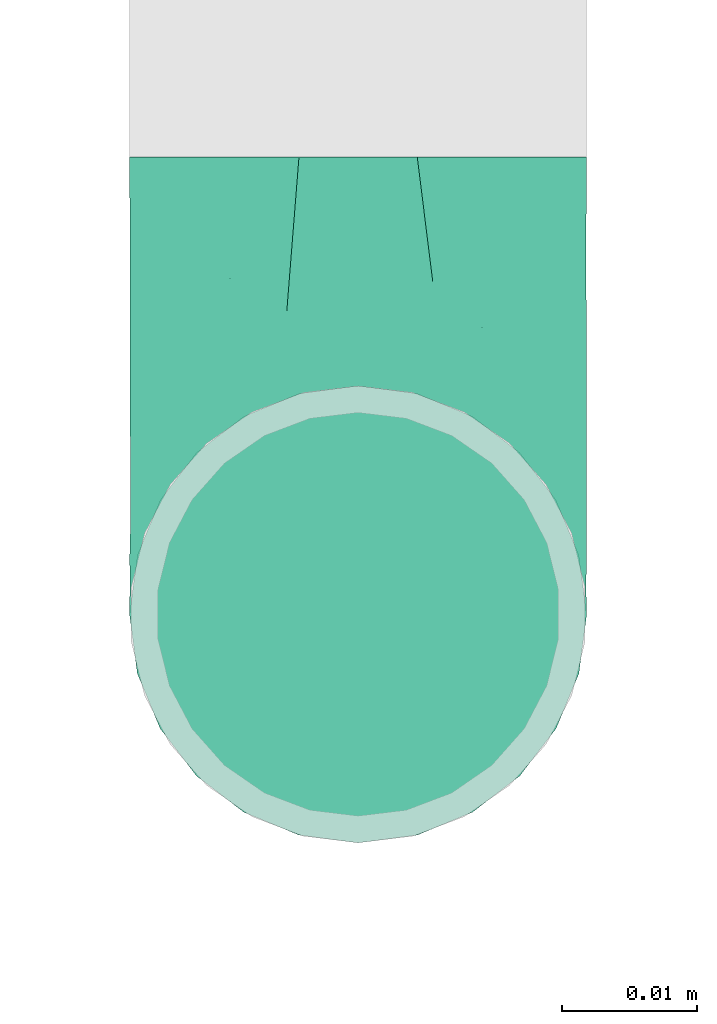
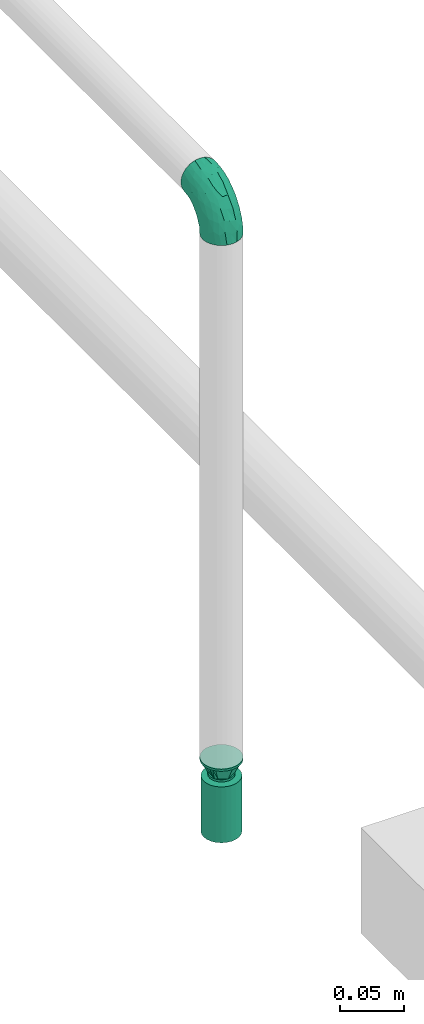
# One storey, part 52 of 95: 2 flow fittings, 1 flow terminal.
"""IFC2X3 building model written with IfcOpenShell, lengths in millimetres."""

from ifc_helpers import new_model, entity, si_unit, converted_unit, derived_unit, direction, frame, origin_with_axes, place, context, subcontext, project, spatial, open_shell, surface_model, source, transform, mapped, type_object, element, save


model = new_model("IFC2X3")

# Units and contexts
model_context = context("Model", 3, precision=0.01, world=frame((0.0, 4.29681676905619e-09, 0.0)), true_north=direction((4.01073788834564e-13, 1.0)))
plan_context = context("Plan", 3, precision=0.01, world=frame((0.0, 4.29681676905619e-09, 0.0)), true_north=direction((4.01073788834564e-13, 1.0)))
body_context = subcontext(model_context, "Body", "Model", "MODEL_VIEW")
ifc_project = project(units=[converted_unit("PLANEANGLEUNIT", "DEGREE", entity("IfcPositiveLengthMeasure", 0.0174532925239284), si_unit("PLANEANGLEUNIT", "RADIAN"), dimensions=[0, 0, 0, 0, 0, 0, 0]), si_unit("AREAUNIT", "SQUARE_METRE"), si_unit("LENGTHUNIT", "METRE", prefix="MILLI"), si_unit("MASSUNIT", "GRAM", prefix="KILO"), si_unit("POWERUNIT", "WATT"), si_unit("PRESSUREUNIT", "PASCAL"), si_unit("FORCEUNIT", "NEWTON", prefix="KILO"), si_unit("ELECTRICVOLTAGEUNIT", "VOLT"), si_unit("ELECTRICCURRENTUNIT", "AMPERE"), si_unit("THERMODYNAMICTEMPERATUREUNIT", "DEGREE_CELSIUS"), si_unit("TIMEUNIT", "SECOND"), si_unit("VOLUMEUNIT", "CUBIC_METRE"), derived_unit("LINEARVELOCITYUNIT", [(si_unit("LENGTHUNIT", "METRE"), 1), (si_unit("TIMEUNIT", "SECOND"), -1)]), derived_unit("VOLUMETRICFLOWRATEUNIT", [(si_unit("VOLUMEUNIT", "CUBIC_METRE"), 1), (si_unit("TIMEUNIT", "SECOND"), -1)]), derived_unit("THERMALTRANSMITTANCEUNIT", [(si_unit("POWERUNIT", "WATT"), 1), (si_unit("THERMODYNAMICTEMPERATUREUNIT", "KELVIN"), -1), (si_unit("AREAUNIT", "SQUARE_METRE"), -1)]), derived_unit("SOUNDPRESSUREUNIT", [(si_unit("PRESSUREUNIT", "PASCAL"), 1)])], contexts=[model_context, plan_context])

# Site, building, storey
site_placement = place(None, frame((0.0, -4.29681676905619e-09, 0.0), z_axis=(0.0, 0.0, 1.0), x_axis=(1.0, 0.0, 0.0)))
site = spatial("IfcSite", under=ifc_project, at=site_placement, CompositionType="ELEMENT")
building_placement = place(site_placement, frame((0.0, 4.29681676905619e-09, 0.0), z_axis=(0.0, 0.0, 1.0), x_axis=(1.0, 0.0, 0.0)))
building = spatial("IfcBuilding", under=site, at=building_placement, Name="mc-building", CompositionType="ELEMENT")
storey_placement = place(building_placement, frame((0.0, 0.0, 210900.0), z_axis=(0.0, 0.0, 1.0), x_axis=(1.0, 0.0, 0.0)))
storey = spatial("IfcBuildingStorey", under=building, at=storey_placement, Name="Nivå F", CompositionType="ELEMENT", Elevation=210900.0)

# Flow fittings
pipe_fitting_type_1 = type_object("IfcPipeFittingType", Name="magi_pipe_fe_reducer_centric_short_NOR", PredefinedType="TRANSITION")
shared_shape_1 = source(origin_with_axes(), body_context, "Body", "SurfaceModel", [
    surface_model("IfcShellBasedSurfaceModel", [(-2.0, -7.56604, -7.56604), (-2.0, -10.33541, -2.76936), (-2.0, -5.35, -9.26647), (-2.0, 5.35, -9.26647), (-2.0, 10.33541, -2.76936), (-2.0, 7.56604, -7.56604), (12.4, 11.9501, 11.9501), (12.4, 0.0, 16.9), (12.4, 11.9501, -11.9501), (12.4, 16.9, 0.0), (0.0, -10.7, 0.0), (0.0, -5.35, 9.26647), (0.0, -5.35, -9.26647), (0.0, 10.7, 0.0), (12.4, 15.66253, -2.98753), (12.4, 8.96258, -13.18758), (0.0, 6.6875, -6.94985), (12.4, -15.66253, -2.98753), (12.4, -16.9, 0.0), (12.4, 5.97505, -14.42505), (0.0, 5.35, -9.26647), (12.4, 14.42505, -5.97505), (0.0, 8.025, -4.63324), (0.0, 9.3625, -2.31662), (0.0, -9.3625, -2.31662), (0.0, -8.025, -4.63324), (12.4, -14.42505, -5.97505), (12.4, 13.18758, -8.96258), (12.4, -13.18758, -8.96258), (12.4, -11.9501, -11.9501), (0.0, -6.6875, -6.94985), (12.4, -8.96258, -13.18758), (12.4, -5.97505, -14.42505), (12.4, -15.66253, 2.98753), (12.4, -8.96258, 13.18758), (0.0, -6.6875, 6.94985), (12.4, -11.9501, 11.9501), (12.4, 15.66253, 2.98753), (12.4, -5.97505, 14.42505), (12.4, -14.42505, 5.97505), (0.0, -8.025, 4.63324), (0.0, -9.3625, 2.31662), (0.0, 9.3625, 2.31662), (0.0, 8.025, 4.63324), (12.4, 14.42505, 5.97505), (12.4, -13.18758, 8.96258), (12.4, 13.18758, 8.96258), (0.0, 6.6875, 6.94985), (12.4, 8.96258, 13.18758), (0.0, 5.35, 9.26647), (12.4, 5.97505, 14.42505), (14.4, 4.37404, -16.32415), (14.4, 8.45, -14.63583), (14.4, 11.9501, -11.9501), (14.4, -8.45, -14.63583), (14.4, 16.32415, -4.37404), (14.4, 16.32415, 4.37404), (14.4, 14.63583, -8.45), (14.4, 0.0, -16.9), (14.4, -4.37404, -16.32415), (14.4, -11.9501, -11.9501), (14.4, -16.32415, -4.37404), (14.4, -14.63583, -8.45), (14.4, -16.32415, 4.37404), (14.4, 16.9, 0.0), (14.4, 14.63583, 8.45), (14.4, 11.9501, 11.9501), (14.4, 4.37404, 16.32415), (14.4, 8.45, 14.63583), (14.4, 0.0, 16.9), (14.4, -14.63583, 8.45), (14.4, -16.9, 0.0), (14.4, -8.45, 14.63583), (14.4, -11.9501, 11.9501), (14.4, -4.37404, 16.32415), (12.4, 4.37404, 16.32415), (12.4, -14.63583, 8.45), (12.4, 16.32415, 4.37404), (12.4, 8.45, 14.63583), (12.4, 14.63583, 8.45), (12.4, -8.45, 14.63583), (12.4, -4.37404, 16.32415), (12.4, -16.32415, 4.37404), (12.4, -16.32415, -4.37404), (12.4, -8.45, -14.63583), (12.4, 16.32415, -4.37404), (12.4, 14.63583, -8.45), (12.4, 8.45, -14.63583), (12.4, 4.37404, -16.32415), (12.4, 0.0, -16.9), (12.4, -14.63583, -8.45), (12.4, -4.37404, -16.32415), (-2.0, 2.76936, 10.33541), (-2.0, 0.0, 10.7), (-2.0, 5.35, 9.26647), (-2.0, 7.56604, 7.56604), (-2.0, 9.26647, 5.35), (-2.0, 10.33541, 2.76936), (-2.0, -10.33541, 2.76936), (-2.0, -2.76936, 10.33541), (-2.0, -7.56604, 7.56604), (-2.0, -5.35, 9.26647), (-2.0, -9.26647, 5.35), (-2.0, -10.7, 0.0), (-2.0, 9.26647, -5.35), (-2.0, 2.76936, -10.33541), (-2.0, -9.26647, -5.35), (-2.0, 0.0, -10.7), (-2.0, -2.76936, -10.33541), (-2.0, 10.7, 0.0), (0.0, 0.0, -10.7), (0.0, 2.76936, -10.33541), (0.0, 10.33541, -2.76936), (0.0, 7.56604, -7.56604), (0.0, -10.33541, -2.76936), (0.0, 9.26647, -5.35), (0.0, 0.0, 10.7), (0.0, -2.76936, -10.33541), (0.0, -7.56604, -7.56604), (0.0, -9.26647, -5.35), (0.0, 10.33541, 2.76936), (0.0, 9.26647, 5.35), (0.0, 7.56604, 7.56604), (0.0, 2.76936, 10.33541), (0.0, -7.56604, 7.56604), (0.0, -10.33541, 2.76936), (0.0, -9.26647, 5.35), (0.0, -2.76936, 10.33541), (0.0, 2.675, -9.26647), (0.0, -2.675, -9.26647), (12.4, 2.98753, -15.66253), (0.0, 0.0, -9.26647), (12.4, -2.98753, -15.66253), (0.0, -2.675, 9.26647), (0.0, 2.675, 9.26647), (12.4, -2.98753, 15.66253), (0.0, 0.0, 9.26647), (12.4, 2.98753, 15.66253)], [open_shell([[[0, 1, 2]], [[3, 4, 5]], [[6, 7, 8]], [[8, 9, 6]], [[10, 11, 12]], [[13, 9, 14]], [[15, 16, 8]], [[17, 18, 10]], [[15, 19, 20]], [[21, 22, 23]], [[24, 25, 26]], [[22, 21, 27]], [[28, 26, 25]], [[29, 30, 31]], [[12, 32, 31]], [[10, 18, 33]], [[34, 35, 36]], [[37, 9, 13]], [[34, 38, 11]], [[39, 40, 41]], [[42, 43, 44]], [[40, 39, 45]], [[46, 44, 43]], [[6, 47, 48]], [[49, 50, 48]], [[51, 52, 53]], [[54, 51, 53]], [[53, 55, 56]], [[55, 53, 57]], [[53, 56, 54]], [[58, 54, 59]], [[58, 51, 54]], [[60, 61, 62]], [[61, 60, 54]], [[54, 63, 61]], [[56, 55, 64]], [[56, 65, 66]], [[56, 66, 67]], [[67, 63, 54]], [[67, 66, 68]], [[63, 67, 69]], [[69, 70, 63]], [[71, 61, 63]], [[70, 72, 73]], [[70, 69, 72]], [[72, 69, 74]], [[54, 56, 67]], [[75, 76, 7]], [[77, 75, 78]], [[6, 79, 77]], [[6, 77, 78]], [[76, 75, 77]], [[80, 76, 36]], [[80, 81, 7]], [[7, 76, 80]], [[82, 76, 77]], [[82, 83, 18]], [[82, 77, 84]], [[77, 85, 8]], [[8, 85, 86]], [[8, 87, 88]], [[84, 77, 8]], [[88, 89, 8]], [[83, 29, 90]], [[29, 83, 84]], [[84, 89, 91]], [[83, 82, 84]], [[8, 89, 84]], [[85, 77, 9]], [[83, 61, 18]], [[90, 62, 83]], [[54, 29, 84]], [[90, 29, 60]], [[59, 84, 91]], [[83, 62, 61]], [[61, 71, 18]], [[59, 54, 84]], [[60, 29, 54]], [[60, 62, 90]], [[58, 59, 91]], [[91, 89, 58]], [[88, 51, 89]], [[87, 52, 88]], [[57, 8, 86]], [[87, 8, 53]], [[55, 86, 85]], [[87, 53, 52]], [[52, 51, 88]], [[64, 55, 85]], [[57, 86, 55]], [[57, 53, 8]], [[9, 64, 85]], [[89, 51, 58]], [[77, 56, 9]], [[79, 65, 77]], [[68, 6, 78]], [[79, 6, 66]], [[67, 78, 75]], [[77, 65, 56]], [[56, 64, 9]], [[67, 68, 78]], [[66, 6, 68]], [[66, 65, 79]], [[69, 67, 75]], [[75, 7, 69]], [[81, 74, 7]], [[80, 72, 81]], [[70, 36, 76]], [[80, 36, 73]], [[63, 76, 82]], [[80, 73, 72]], [[72, 74, 81]], [[71, 63, 82]], [[70, 76, 63]], [[70, 73, 36]], [[18, 71, 82]], [[7, 74, 69]], [[92, 1, 93]], [[94, 1, 92]], [[95, 96, 97]], [[95, 97, 94]], [[98, 93, 1]], [[99, 100, 101]], [[99, 93, 100]], [[100, 98, 102]], [[93, 98, 100]], [[98, 1, 103]], [[94, 97, 1]], [[1, 97, 4]], [[5, 4, 104]], [[4, 3, 1]], [[105, 1, 3]], [[1, 0, 106]], [[2, 107, 108]], [[2, 1, 105]], [[105, 107, 2]], [[4, 97, 109]], [[20, 110, 111]], [[112, 20, 113]], [[114, 20, 112]], [[112, 113, 115]], [[116, 114, 112]], [[110, 12, 117]], [[110, 20, 12]], [[118, 114, 119]], [[114, 118, 12]], [[20, 114, 12]], [[112, 13, 120]], [[120, 121, 122]], [[120, 122, 123]], [[116, 112, 123]], [[123, 122, 49]], [[116, 124, 114]], [[125, 124, 126]], [[10, 114, 125]], [[124, 127, 11]], [[125, 114, 124]], [[127, 124, 116]], [[123, 112, 120]], [[1, 114, 103]], [[106, 119, 1]], [[12, 0, 2]], [[106, 0, 118]], [[117, 2, 108]], [[1, 119, 114]], [[114, 10, 103]], [[117, 12, 2]], [[118, 0, 12]], [[118, 119, 106]], [[110, 117, 108]], [[108, 107, 110]], [[105, 111, 107]], [[3, 20, 105]], [[115, 5, 104]], [[3, 5, 113]], [[112, 104, 4]], [[3, 113, 20]], [[20, 111, 105]], [[13, 112, 4]], [[115, 104, 112]], [[115, 113, 5]], [[109, 13, 4]], [[107, 111, 110]], [[97, 120, 109]], [[96, 121, 97]], [[49, 95, 94]], [[96, 95, 122]], [[123, 94, 92]], [[97, 121, 120]], [[120, 13, 109]], [[123, 49, 94]], [[122, 95, 49]], [[122, 121, 96]], [[116, 123, 92]], [[92, 93, 116]], [[99, 127, 93]], [[101, 11, 99]], [[126, 100, 102]], [[101, 100, 124]], [[125, 102, 98]], [[101, 124, 11]], [[11, 127, 99]], [[10, 125, 98]], [[126, 102, 125]], [[126, 124, 100]], [[103, 10, 98]], [[93, 127, 116]], [[18, 7, 36]], [[18, 29, 8]], [[89, 8, 29]], [[18, 8, 7]], [[13, 11, 49]], [[13, 20, 12]], [[13, 12, 11]], [[24, 26, 17]], [[10, 24, 17]], [[16, 15, 20]], [[30, 12, 31]], [[23, 14, 21]], [[19, 128, 20]], [[27, 8, 16]], [[32, 12, 129]], [[30, 28, 25]], [[130, 131, 128]], [[129, 132, 32]], [[16, 22, 27]], [[13, 14, 23]], [[128, 19, 130]], [[130, 89, 131]], [[131, 132, 129]], [[89, 132, 131]], [[28, 30, 29]], [[42, 44, 37]], [[13, 42, 37]], [[35, 34, 11]], [[47, 49, 48]], [[41, 33, 39]], [[38, 133, 11]], [[45, 36, 35]], [[50, 49, 134]], [[47, 46, 43]], [[135, 136, 133]], [[134, 137, 50]], [[35, 40, 45]], [[10, 33, 41]], [[133, 38, 135]], [[135, 7, 136]], [[136, 137, 134]], [[7, 137, 136]], [[46, 47, 6]]])]),
])
flow_fitting_1_placement = place(storey_placement, frame((535898.68266, 444207.85, 3762.948), z_axis=(-1.0, 0.0, 0.0), x_axis=(0.0, 0.0, 1.0)))
element("IfcFlowFitting", 1, at=flow_fitting_1_placement, inside=storey, type_object=pipe_fitting_type_1, Name="magi_pipe_fe_reducer_centric_short_NOR", context=body_context, shape_type="MappedRepresentation", body=[
    mapped(shared_shape_1, transform((0.0, 0.0, 0.0), scale=1.0)),
])
pipe_fitting_type_2 = type_object("IfcPipeFittingType", Name="magi_pipe_fe_elbow_short_001", PredefinedType="BEND")
shared_shape_2 = source(origin_with_axes(), body_context, "Body", "SurfaceModel", [
    surface_model("IfcShellBasedSurfaceModel", [(-33.8, 8.45, -14.63583), (-33.8, 4.37404, -16.32415), (-33.8, 11.9501, -11.9501), (-33.8, -11.9501, -11.9501), (-33.8, -14.63583, -8.45), (-33.8, -8.45, -14.63583), (-33.8, 0.0, -16.9), (-33.8, -4.37404, -16.32415), (-33.8, -4.37404, 16.32415), (-33.8, 0.0, 16.9), (-33.8, -8.45, 14.63583), (-33.8, 16.32415, -4.37404), (-33.8, 14.63583, -8.45), (-33.8, -16.32415, -4.37404), (-33.8, -16.9, 0.0), (-33.8, -16.32415, 4.37404), (-33.8, 11.9501, 11.9501), (-33.8, 14.63583, 8.45), (-33.8, 16.32415, 4.37404), (-33.8, 4.37404, 16.32415), (-33.8, 8.45, 14.63583), (-33.8, -14.63583, 8.45), (-33.8, -11.9501, 11.9501), (-33.8, 16.9, 0.0), (-11.9501, 33.8, -11.9501), (0.0, 33.8, -16.9), (-4.37404, 33.8, -16.32415), (-8.45, 33.8, -14.63583), (-14.63583, 33.8, -8.45), (-16.32415, 33.8, -4.37404), (14.63583, 33.8, -8.45), (8.45, 33.8, 14.63583), (16.32415, 33.8, -4.37404), (8.45, 33.8, -14.63583), (11.9501, 33.8, -11.9501), (4.37404, 33.8, -16.32415), (16.32415, 33.8, 4.37404), (16.9, 33.8, 0.0), (-11.9501, 33.8, 11.9501), (-16.32415, 33.8, 4.37404), (-14.63583, 33.8, 8.45), (-8.45, 33.8, 14.63583), (-4.37404, 33.8, 16.32415), (11.9501, 33.8, 11.9501), (14.63583, 33.8, 8.45), (0.0, 33.8, 16.9), (4.37404, 33.8, 16.32415), (-16.9, 33.8, 0.0), (-24.79389, -13.12945, 9.48721), (-22.19287, -9.75018, 12.59315), (-24.09897, -14.97035, 0.0), (-14.93934, -10.76256, 8.5297), (-22.46095, -14.75051, 5.27077), (14.75051, 22.46094, 5.27077), (11.9251, 13.23888, 4.33236), (13.04069, 14.39795, 0.0), (7.71387, 13.68847, 11.55891), (9.75018, 22.19287, 12.59315), (4.10169, 13.0571, 14.04018), (-24.84007, -6.39063, 15.2048), (-25.81779, -2.23879, 16.61097), (-23.66549, 2.59054, 16.87119), (-26.50418, 14.06512, 11.08152), (-24.21253, 17.66365, 7.72657), (-29.58514, 15.86957, 7.00283), (-6.17382, -7.5455, 0.0), (-13.23888, -11.9251, 4.33236), (-14.39795, -13.04069, 0.0), (-17.81434, 18.87373, 11.97104), (-6.30846, 29.15138, 15.82987), (-2.31622, 25.28002, 16.85849), (-29.23923, 10.23435, 13.77053), (-1.45439, -2.85688, 7.61475), (-0.28326, 0.34872, 10.09509), (-5.74484, -4.04709, 10.4122), (-4.41137, 11.31918, 16.59407), (-8.39727, 3.10034, 15.7812), (-1.72649, 9.1306, 15.53089), (-17.39909, 24.75344, 7.64977), (-26.19233, 20.0512, 0.0), (-28.14518, 17.29657, 4.25857), (-26.05147, 6.6281, 15.96447), (-5.87354, 16.61944, 16.86968), (-12.51807, 12.51807, 16.48937), (-10.06312, 7.38516, 16.81295), (-3.01882, 3.01882, 13.81718), (-13.0571, -4.10169, 14.04018), (-16.82553, -0.15166, 16.38038), (10.76256, 14.93934, 8.5297), (13.12945, 24.79389, 9.48721), (6.39063, 24.84007, 15.2048), (2.23879, 25.81779, 16.61097), (-13.68847, -7.71387, 11.55891), (14.97035, 24.09897, 0.0), (-7.30894, 22.89991, 16.09489), (-10.67958, 26.17414, 14.008), (-12.78295, 18.26924, 15.06066), (-13.88562, 22.45231, 12.93244), (-18.04944, 15.16501, 14.04434), (-23.11658, 20.08178, 4.02986), (-21.84989, 21.84989, 0.0), (-18.55817, 25.48277, 3.93065), (-13.95142, 26.94732, 11.03289), (-18.57098, 7.23906, 16.59756), (-16.58335, 4.14122, 16.89279), (-17.96666, 11.46709, 15.63151), (-9.84453, 17.54304, 16.18938), (0.15166, 16.82553, 16.38038), (-23.27207, 11.47201, 14.23154), (3.84842, 5.86994, 10.70473), (-8.0212, -7.54413, 7.93275), (1.00345, -2.19508, 4.57414), (5.13203, 3.01004, 5.90201), (5.24161, 1.7543, 2.53265), (8.70457, 7.04947, 3.99182), (-20.0512, 26.19233, 0.0), (8.4852, 8.76699, 7.09296), (-4.55488, -6.72064, 4.90681), (2.05031, -2.05031, 0.0), (7.5455, 6.17382, 0.0), (-26.75399, 2.1369, -16.845), (-14.61995, 24.73803, -11.27736), (-28.45274, -13.45335, -9.81895), (-26.00469, 6.63555, -15.96645), (-23.06726, 20.04573, -4.26202), (-13.80647, -4.26506, -14.17873), (-14.67501, -0.21081, -16.07388), (-6.7902, -0.2828, -13.8478), (-24.53586, 11.08096, -14.13417), (-26.72048, 14.00837, -11.05776), (10.0967, 24.44989, -12.75976), (5.83237, 21.40218, -15.03047), (6.66249, 28.54238, -15.38093), (-20.38182, 15.48705, -12.74596), (12.53268, 21.23441, -9.15363), (12.54494, 15.67504, -5.54878), (9.7522, 12.89279, -8.66343), (-15.65186, 19.64213, -13.01327), (-12.03528, 20.66498, -14.67665), (-15.61907, 15.61906, -14.83879), (-25.56551, -15.26206, 0.0), (-24.65452, -15.12934, -5.50955), (13.45335, 28.45274, -9.81895), (15.12934, 24.65452, -5.50955), (-7.35442, -8.31014, -5.65563), (-15.67504, -12.54494, -5.54878), (-24.44989, -10.0967, -12.75976), (0.16522, 0.41303, -9.71728), (-5.70658, -5.33066, -8.89288), (-5.13869, -2.37198, -11.53565), (-21.23441, -12.53268, -9.15363), (0.71146, 7.93863, -14.09382), (0.21081, 14.67501, -16.07388), (3.49291, 14.42772, -14.76381), (-24.89911, -2.13088, -16.591), (-28.54238, -6.66249, -15.38093), (-18.44386, -7.71663, -13.26957), (2.13088, 24.89911, -16.591), (-28.64342, 17.44413, -2.89318), (1.70017, -1.28722, -5.09504), (-16.57067, 26.81947, -7.36596), (-17.69055, 27.4263, -3.76405), (-12.89279, -9.7522, -8.66343), (-5.96611, 5.96611, -15.95814), (-20.53709, 20.09345, -8.28985), (-2.1369, 26.75399, -16.845), (-6.89872, 24.58781, -16.02578), (-10.60739, 26.53157, -13.98044), (-21.40218, -5.83237, -15.03047), (2.93192, 5.89627, -11.55917), (6.89393, 12.61842, -11.82233), (5.58056, 5.95325, -8.79455), (-3.99512, 18.61798, -16.89635), (8.31014, 7.35442, -5.65563), (-9.1383, 9.86148, -16.89041), (-9.99983, 16.02119, -16.39699), (-16.68576, 9.78031, -16.34199), (-27.01915, 16.61158, -7.12979), (15.26206, 25.56551, 0.0), (-18.61798, 3.99512, -16.89635), (-19.37495, 27.82495, 0.0), (-12.61842, -6.89393, -11.82233), (-18.84705, 19.14018, -10.96545)], [open_shell([[[0, 1, 2]], [[3, 4, 5]], [[6, 7, 5]], [[8, 9, 10]], [[1, 6, 2]], [[11, 12, 2]], [[4, 2, 6]], [[2, 13, 10]], [[5, 4, 6]], [[2, 4, 13]], [[14, 15, 13]], [[11, 2, 16]], [[11, 17, 18]], [[11, 16, 17]], [[19, 20, 16]], [[16, 2, 10]], [[19, 16, 10]], [[21, 22, 15]], [[22, 13, 15]], [[22, 10, 13]], [[10, 9, 19]], [[11, 18, 23]], [[24, 25, 26]], [[24, 26, 27]], [[24, 28, 29]], [[25, 24, 30]], [[31, 32, 24]], [[33, 30, 34]], [[33, 35, 25]], [[25, 30, 33]], [[32, 30, 24]], [[32, 36, 37]], [[38, 24, 29]], [[39, 40, 29]], [[40, 38, 29]], [[38, 41, 42]], [[38, 31, 24]], [[31, 38, 42]], [[36, 43, 44]], [[36, 32, 43]], [[31, 45, 46]], [[32, 31, 43]], [[42, 45, 31]], [[39, 29, 47]], [[22, 48, 49]], [[15, 14, 50]], [[51, 48, 52]], [[53, 54, 55]], [[48, 22, 21]], [[15, 52, 21]], [[56, 57, 58]], [[49, 10, 22]], [[49, 59, 10]], [[9, 60, 61]], [[62, 63, 64]], [[65, 66, 67]], [[57, 43, 31]], [[62, 68, 63]], [[42, 69, 70]], [[20, 71, 16]], [[8, 60, 9]], [[72, 73, 74]], [[75, 76, 77]], [[16, 62, 17]], [[40, 39, 78]], [[79, 23, 80]], [[64, 18, 17]], [[9, 61, 19]], [[19, 81, 20]], [[82, 83, 84]], [[74, 85, 86]], [[59, 86, 87]], [[88, 89, 57]], [[90, 31, 46]], [[44, 53, 36]], [[46, 45, 91]], [[54, 53, 88]], [[44, 89, 53]], [[92, 86, 49]], [[89, 44, 43]], [[10, 59, 8]], [[53, 55, 93]], [[93, 36, 53]], [[66, 52, 67]], [[94, 82, 70]], [[95, 96, 94]], [[97, 98, 96]], [[79, 99, 100]], [[41, 38, 95]], [[101, 100, 99]], [[68, 78, 63]], [[42, 41, 69]], [[23, 18, 80]], [[95, 94, 69]], [[78, 101, 99]], [[38, 102, 95]], [[70, 45, 42]], [[97, 95, 102]], [[15, 50, 52]], [[90, 57, 31]], [[57, 90, 58]], [[81, 19, 61]], [[103, 104, 84]], [[105, 81, 103]], [[38, 40, 102]], [[106, 96, 83]], [[94, 106, 82]], [[91, 70, 107]], [[71, 62, 16]], [[62, 108, 98]], [[86, 59, 49]], [[67, 52, 50]], [[60, 59, 87]], [[92, 49, 51]], [[86, 85, 76]], [[91, 90, 46]], [[37, 36, 93]], [[107, 77, 58]], [[107, 58, 90]], [[58, 85, 109]], [[110, 74, 92]], [[72, 74, 110]], [[66, 51, 52]], [[72, 111, 112]], [[113, 114, 112]], [[56, 88, 57]], [[52, 48, 21]], [[49, 48, 51]], [[57, 89, 43]], [[53, 89, 88]], [[103, 81, 61]], [[71, 81, 108]], [[18, 64, 80]], [[63, 78, 99]], [[47, 115, 101]], [[101, 115, 100]], [[40, 78, 102]], [[68, 102, 78]], [[97, 96, 95]], [[105, 98, 108]], [[103, 84, 83]], [[107, 70, 82]], [[76, 84, 87]], [[82, 84, 75]], [[70, 91, 45]], [[90, 91, 107]], [[59, 60, 8]], [[61, 60, 87]], [[73, 85, 74]], [[109, 112, 116]], [[103, 61, 104]], [[105, 103, 83]], [[96, 105, 83]], [[81, 105, 108]], [[96, 98, 105]], [[62, 98, 68]], [[61, 87, 104]], [[87, 84, 104]], [[86, 76, 87]], [[77, 76, 85]], [[58, 77, 85]], [[75, 77, 107]], [[82, 75, 107]], [[76, 75, 84]], [[81, 71, 20]], [[62, 71, 108]], [[95, 69, 41]], [[70, 69, 94]], [[62, 64, 17]], [[80, 63, 99]], [[63, 80, 64]], [[80, 99, 79]], [[66, 65, 117]], [[110, 66, 117]], [[112, 114, 116]], [[118, 117, 65]], [[110, 92, 51]], [[112, 111, 113]], [[119, 55, 54]], [[74, 86, 92]], [[58, 109, 56]], [[116, 56, 109]], [[66, 110, 51]], [[72, 110, 117]], [[111, 72, 117]], [[73, 112, 109]], [[117, 118, 111]], [[113, 111, 118]], [[118, 119, 113]], [[114, 119, 54]], [[119, 114, 113]], [[116, 54, 88]], [[54, 116, 114]], [[116, 88, 56]], [[112, 73, 72]], [[85, 73, 109]], [[78, 39, 101]], [[47, 101, 39]], [[102, 68, 97]], [[97, 68, 98]], [[82, 106, 83]], [[94, 96, 106]], [[1, 120, 6]], [[28, 24, 121]], [[3, 122, 4]], [[0, 123, 1]], [[100, 124, 79]], [[125, 126, 127]], [[128, 2, 129]], [[130, 131, 132]], [[128, 129, 133]], [[134, 135, 136]], [[137, 138, 139]], [[128, 0, 2]], [[67, 140, 141]], [[134, 142, 143]], [[141, 13, 4]], [[144, 65, 145]], [[146, 3, 5]], [[147, 148, 149]], [[145, 141, 150]], [[151, 152, 153]], [[154, 7, 6]], [[5, 155, 146]], [[150, 146, 156]], [[155, 5, 7]], [[143, 135, 134]], [[35, 157, 25]], [[23, 79, 158]], [[148, 159, 144]], [[160, 161, 29]], [[145, 162, 144]], [[163, 152, 151]], [[29, 28, 160]], [[121, 164, 160]], [[33, 34, 130]], [[25, 165, 26]], [[26, 165, 166]], [[142, 34, 30]], [[24, 27, 167]], [[124, 161, 164]], [[157, 35, 132]], [[155, 154, 168]], [[123, 0, 128]], [[169, 170, 171]], [[172, 157, 152]], [[26, 166, 27]], [[132, 35, 33]], [[142, 130, 34]], [[168, 154, 126]], [[136, 135, 173]], [[133, 137, 139]], [[2, 12, 129]], [[170, 131, 130]], [[30, 32, 143]], [[172, 174, 175]], [[176, 123, 128]], [[158, 177, 11]], [[135, 55, 119]], [[167, 27, 166]], [[175, 166, 172]], [[137, 167, 138]], [[122, 141, 4]], [[140, 14, 13]], [[32, 37, 178]], [[170, 130, 134]], [[152, 157, 131]], [[165, 157, 172]], [[153, 170, 151]], [[152, 163, 174]], [[168, 125, 156]], [[122, 146, 150]], [[120, 154, 6]], [[179, 174, 126]], [[179, 126, 154]], [[126, 163, 127]], [[162, 145, 150]], [[140, 13, 141]], [[32, 178, 143]], [[55, 143, 178]], [[177, 129, 12]], [[128, 133, 139]], [[176, 128, 139]], [[120, 123, 179]], [[121, 160, 28]], [[161, 100, 180]], [[166, 175, 138]], [[121, 24, 167]], [[161, 47, 29]], [[79, 124, 158]], [[124, 164, 177]], [[161, 124, 100]], [[136, 171, 170]], [[127, 163, 151]], [[147, 171, 159]], [[148, 144, 162]], [[127, 151, 169]], [[127, 181, 125]], [[129, 177, 164]], [[12, 11, 177]], [[159, 65, 144]], [[67, 141, 145]], [[143, 55, 135]], [[135, 119, 173]], [[123, 120, 1]], [[154, 120, 179]], [[157, 165, 25]], [[166, 165, 172]], [[172, 152, 174]], [[176, 139, 175]], [[126, 174, 163]], [[176, 174, 179]], [[174, 176, 175]], [[123, 176, 179]], [[150, 181, 162]], [[127, 149, 181]], [[181, 148, 162]], [[159, 148, 147]], [[171, 136, 173]], [[170, 134, 136]], [[159, 171, 173]], [[171, 147, 169]], [[169, 147, 149]], [[151, 170, 169]], [[164, 182, 129]], [[182, 121, 137]], [[181, 149, 148]], [[169, 149, 127]], [[182, 137, 133]], [[167, 137, 121]], [[166, 138, 167]], [[175, 139, 138]], [[129, 182, 133]], [[121, 182, 164]], [[161, 160, 164]], [[47, 161, 180]], [[177, 158, 124]], [[23, 158, 11]], [[130, 132, 33]], [[157, 132, 131]], [[143, 142, 30]], [[130, 142, 134]], [[154, 155, 7]], [[146, 155, 168]], [[146, 122, 3]], [[141, 122, 150]], [[152, 131, 153]], [[159, 119, 118]], [[67, 145, 65]], [[170, 153, 131]], [[119, 159, 173]], [[159, 118, 65]], [[156, 125, 181]], [[126, 125, 168]], [[150, 156, 181]], [[168, 156, 146]]])]),
])
flow_fitting_2_placement = place(storey_placement, frame((535898.68266, 444207.85, 4308.26618000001), z_axis=(-1.0, 0.0, 0.0), x_axis=(0.0, 0.0, 1.0)))
element("IfcFlowFitting", 2, at=flow_fitting_2_placement, inside=storey, type_object=pipe_fitting_type_2, Name="magi_pipe_fe_elbow_short_001", context=body_context, shape_type="MappedRepresentation", body=[
    mapped(shared_shape_2, transform((0.0, 0.0, 0.0), scale=1.0)),
])

# Flow terminal
fire_suppression_terminal_type = type_object("IfcFireSuppressionTerminalType", Name="SP-15-K80-68DGR-STD", PredefinedType="NOTDEFINED")
shared_shape_3 = source(origin_with_axes(), body_context, "Body", "SurfaceModel", [
    surface_model("IfcShellBasedSurfaceModel", [(15.45481, -4.1411, 53.0), (13.85641, -8.0, 53.0), (15.45481, -4.1411, 0.0), (16.0, 0.0, 0.0), (16.0, 0.0, 53.0), (15.45481, 4.1411, 0.0), (13.85641, 8.0, 53.0), (15.45481, 4.1411, 53.0), (11.31371, 11.31371, 53.0), (8.0, 13.85641, 53.0), (4.1411, 15.45481, 53.0), (-8.0, 13.85641, 53.0), (-4.1411, 15.45481, 53.0), (0.0, 16.0, 53.0), (-11.31371, 11.31371, 53.0), (-13.85641, 8.0, 53.0), (-15.45481, 4.1411, 53.0), (11.31371, -11.31371, 53.0), (-16.0, 0.0, 53.0), (0.0, -16.0, 53.0), (4.1411, -15.45481, 53.0), (8.0, -13.85641, 53.0), (-13.85641, -8.0, 53.0), (-11.31371, -11.31371, 53.0), (-15.45481, -4.1411, 53.0), (-8.0, -13.85641, 53.0), (-4.1411, -15.45481, 53.0), (8.0, -13.85641, 0.0), (4.1411, -15.45481, 0.0), (0.0, -16.0, 0.0), (-4.1411, -15.45481, 0.0), (13.85641, -8.0, 0.0), (11.31371, -11.31371, 0.0), (-16.0, 0.0, 0.0), (-8.0, -13.85641, 0.0), (-11.31371, -11.31371, 0.0), (-13.85641, -8.0, 0.0), (-15.45481, -4.1411, 0.0), (4.1411, 15.45481, 0.0), (13.85641, 8.0, 0.0), (8.0, 13.85641, 0.0), (11.31371, 11.31371, 0.0), (-15.45481, 4.1411, 0.0), (-11.31371, 11.31371, 0.0), (-8.0, 13.85641, 0.0), (-13.85641, 8.0, 0.0), (-4.1411, 15.45481, 0.0), (0.0, 16.0, 0.0)], [open_shell([[[0, 1, 2]], [[3, 4, 0]], [[5, 6, 7]], [[7, 4, 3]], [[8, 9, 10]], [[8, 10, 11]], [[8, 4, 7]], [[6, 8, 7]], [[4, 8, 11]], [[12, 11, 13]], [[11, 10, 13]], [[14, 15, 11]], [[16, 11, 15]], [[11, 16, 4]], [[16, 0, 4]], [[17, 1, 0]], [[18, 17, 16]], [[19, 20, 21]], [[18, 21, 17]], [[21, 18, 19]], [[22, 23, 24]], [[18, 24, 23]], [[25, 26, 23]], [[18, 23, 26]], [[26, 19, 18]], [[0, 16, 17]], [[27, 28, 29]], [[27, 29, 30]], [[2, 31, 32]], [[32, 27, 33]], [[2, 32, 33]], [[34, 35, 30]], [[36, 30, 35]], [[36, 37, 30]], [[37, 27, 30]], [[37, 33, 27]], [[33, 5, 2]], [[38, 5, 33]], [[39, 5, 38]], [[38, 40, 41]], [[39, 38, 41]], [[33, 42, 38]], [[43, 44, 45]], [[42, 45, 44]], [[46, 47, 44]], [[38, 42, 44]], [[44, 47, 38]], [[5, 3, 2]], [[45, 42, 16]], [[45, 15, 43]], [[46, 44, 11]], [[14, 44, 43]], [[47, 46, 12]], [[33, 18, 42]], [[18, 16, 42]], [[16, 15, 45]], [[15, 14, 43]], [[44, 14, 11]], [[11, 12, 46]], [[12, 13, 47]], [[40, 38, 10]], [[40, 9, 41]], [[5, 39, 6]], [[8, 39, 41]], [[3, 5, 7]], [[13, 10, 38]], [[10, 9, 40]], [[9, 8, 41]], [[8, 6, 39]], [[47, 13, 38]], [[2, 3, 0]], [[31, 2, 1]], [[28, 27, 21]], [[29, 28, 20]], [[1, 17, 32]], [[17, 27, 32]], [[21, 27, 17]], [[21, 20, 28]], [[31, 1, 32]], [[20, 19, 29]], [[34, 30, 26]], [[34, 25, 35]], [[37, 36, 22]], [[23, 36, 35]], [[33, 37, 24]], [[19, 26, 30]], [[26, 25, 34]], [[25, 23, 35]], [[23, 22, 36]], [[37, 22, 24]], [[24, 18, 33]], [[29, 19, 30]]])]),
])
flow_terminal_placement = place(storey_placement, frame((535898.68266, 444207.85, 3759.89999999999), z_axis=(0.0, 0.0, -1.0), x_axis=(1.0, 0.0, 0.0)))
element("IfcFlowTerminal", 3, at=flow_terminal_placement, inside=storey, type_object=fire_suppression_terminal_type, Name="SP-15-K80-68DGR-STD", context=body_context, shape_type="MappedRepresentation", body=[
    mapped(shared_shape_3, transform((0.0, 0.0, 0.0), scale=1.0)),
])

save(model, "model.ifc")
